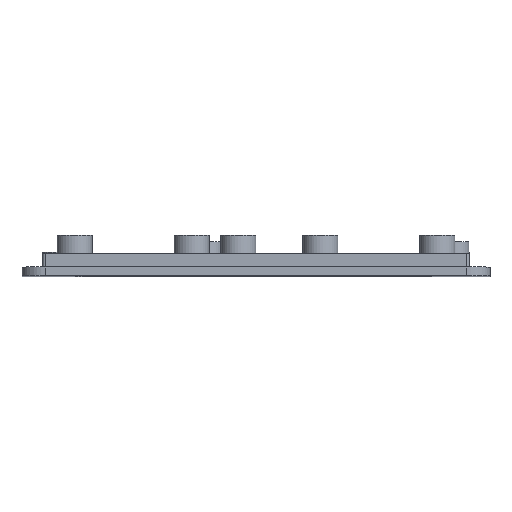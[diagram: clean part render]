
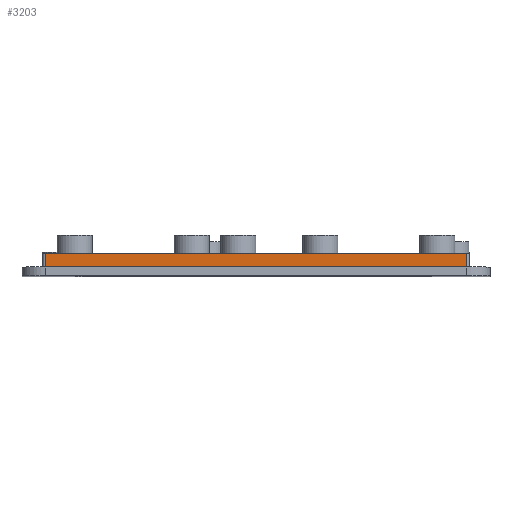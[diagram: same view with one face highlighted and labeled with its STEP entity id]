
A CAD part, top view. The second image highlights one B-rep face of the part: STEP entity #3203.
In plain terms, the highlighted planar face has unit normal (0, 0, 1).
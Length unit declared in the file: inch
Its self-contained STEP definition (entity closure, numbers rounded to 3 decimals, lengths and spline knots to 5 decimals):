
#393 = CARTESIAN_POINT ( 'NONE',  ( -1.8, 0.075, 2.325 ) ) ;
#420 = AXIS2_PLACEMENT_3D ( 'NONE', #3122, #8175, #7573 ) ;
#670 = ORIENTED_EDGE ( 'NONE', *, *, #5492, .T. ) ;
#815 = LINE ( 'NONE', #4673, #6512 ) ;
#923 = LINE ( 'NONE', #393, #5527 ) ;
#1441 = EDGE_CURVE ( 'NONE', #2485, #6340, #7745, .T. ) ;
#1550 = VERTEX_POINT ( 'NONE', #2745 ) ;
#1622 = ORIENTED_EDGE ( 'NONE', *, *, #1636, .F. ) ;
#1630 = VECTOR ( 'NONE', #2604, 39.37008 ) ;
#1636 = EDGE_CURVE ( 'NONE', #2485, #5568, #923, .T. ) ;
#1759 = ORIENTED_EDGE ( 'NONE', *, *, #2324, .F. ) ;
#2092 = CARTESIAN_POINT ( 'NONE',  ( -1.8, 0.075, 2.325 ) ) ;
#2324 = EDGE_CURVE ( 'NONE', #5568, #1550, #815, .T. ) ;
#2485 = VERTEX_POINT ( 'NONE', #7354 ) ;
#2604 = DIRECTION ( 'NONE',  ( 1., 0., 0. ) ) ;
#2745 = CARTESIAN_POINT ( 'NONE',  ( 1.8, 0.19, 2.325 ) ) ;
#3122 = CARTESIAN_POINT ( 'NONE',  ( -1.8, 0.075, 2.325 ) ) ;
#3203 = ADVANCED_FACE ( 'NONE', ( #8053 ), #5647, .T. ) ;
#3308 = ORIENTED_EDGE ( 'NONE', *, *, #1441, .T. ) ;
#3372 = CARTESIAN_POINT ( 'NONE',  ( 1.8, 0.075, 2.325 ) ) ;
#3951 = LINE ( 'NONE', #7363, #4547 ) ;
#4547 = VECTOR ( 'NONE', #6080, 39.37008 ) ;
#4673 = CARTESIAN_POINT ( 'NONE',  ( 0., 0.19, 2.325 ) ) ;
#5239 = DIRECTION ( 'NONE',  ( 1., 0., 0. ) ) ;
#5414 = DIRECTION ( 'NONE',  ( 0., 1., 0. ) ) ;
#5492 = EDGE_CURVE ( 'NONE', #6340, #1550, #3951, .T. ) ;
#5527 = VECTOR ( 'NONE', #5414, 39.37008 ) ;
#5568 = VERTEX_POINT ( 'NONE', #7004 ) ;
#5647 = PLANE ( 'NONE',  #420 ) ;
#6080 = DIRECTION ( 'NONE',  ( 0., 1., 0. ) ) ;
#6340 = VERTEX_POINT ( 'NONE', #3372 ) ;
#6512 = VECTOR ( 'NONE', #5239, 39.37008 ) ;
#7004 = CARTESIAN_POINT ( 'NONE',  ( -1.8, 0.19, 2.325 ) ) ;
#7200 = EDGE_LOOP ( 'NONE', ( #670, #1759, #1622, #3308 ) ) ;
#7354 = CARTESIAN_POINT ( 'NONE',  ( -1.8, 0.075, 2.325 ) ) ;
#7363 = CARTESIAN_POINT ( 'NONE',  ( 1.8, 0.075, 2.325 ) ) ;
#7573 = DIRECTION ( 'NONE',  ( 1., 0., 0. ) ) ;
#7745 = LINE ( 'NONE', #2092, #1630 ) ;
#8053 = FACE_OUTER_BOUND ( 'NONE', #7200, .T. ) ;
#8175 = DIRECTION ( 'NONE',  ( 0., 0., 1. ) ) ;
